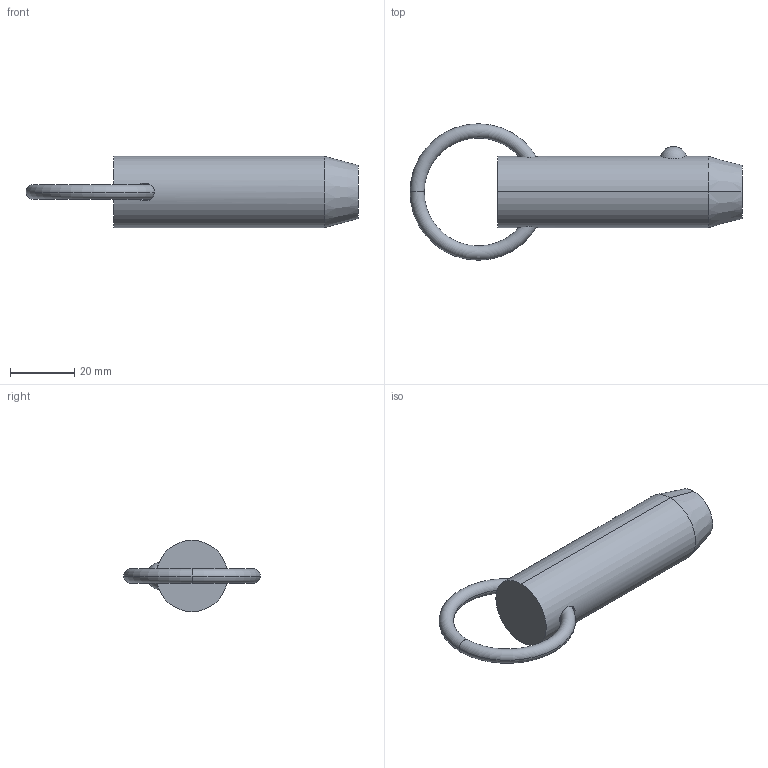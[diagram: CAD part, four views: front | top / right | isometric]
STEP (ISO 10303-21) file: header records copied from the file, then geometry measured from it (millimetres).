
FILE_DESCRIPTION (( 'STEP AP203' ), '1' );
FILE_NAME ('33010.W8815.step', '2024-11-01T10:45:18', ( '' ), ( '' ), 'SwSTEP 2.0', 'SolidWorks 2019', '' );
FILE_SCHEMA (( 'CONFIG_CONTROL_DESIGN' ));
Length unit declared in the file: millimetre
Products named in the file (3): Part2_33010.W8815; Part1_33010.W8815; 33010.W8815
Assembly tree (2 placements, depth 2):
  33010.W8815
    Part1_33010.W8815
    Part2_33010.W8815
Bounding box: 103.56 x 42.55 x 22.23 mm (x, y, z)
Volume: 30043 mm3; surface area: 7916.7 mm2
Topology: 2 solids, 2 shells, 16 faces, 31 edges, 18 vertices
Faces by surface type: torus 8, sphere 2, cone 2, cylinder 2, plane 2
Entity records: 903 total; most frequent: CARTESIAN_POINT 260, DIRECTION 88, ORIENTED_EDGE 62, AXIS2_PLACEMENT_3D 42, EDGE_CURVE 31, PERSON_AND_ORGANIZATION 26, CIRCLE 21, EDGE_LOOP 19
